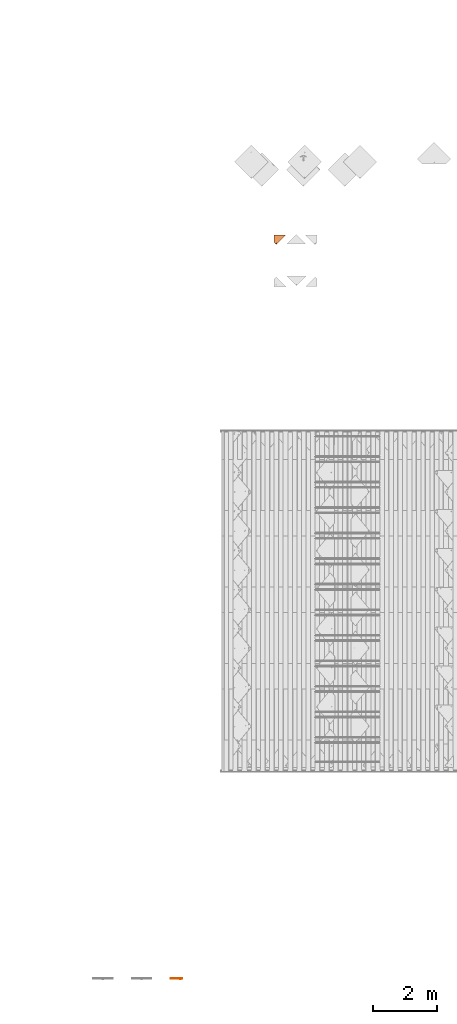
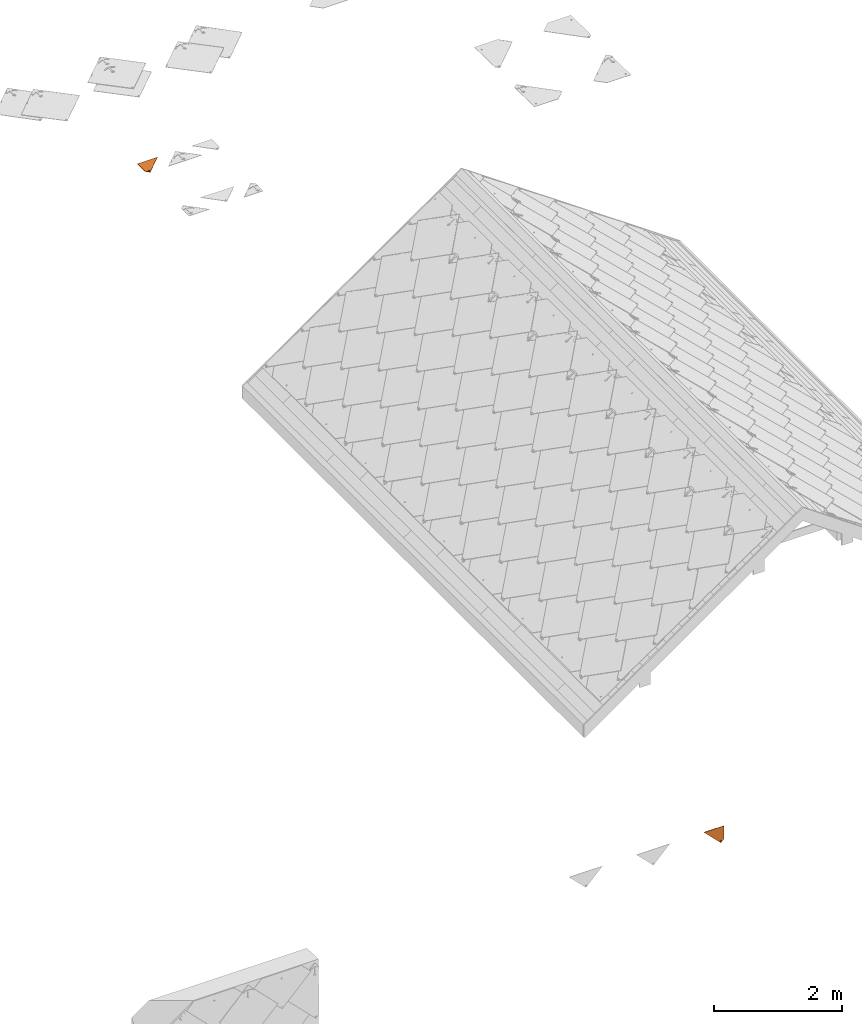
# One storey, part 148 of 151: 2 proxies.
"""IFC2X3 building model written with IfcOpenShell, lengths in millimetres."""

from ifc_helpers import new_model, entity, si_unit, converted_unit, derived_unit, direction, frame, origin, place, context, subcontext, project, spatial, faceted_brep, source, transform, mapped, material, material_list, type_object, type_shapes, element, save


model = new_model("IFC2X3")

# Units and contexts
model_context = context("Model", 3, precision=0.01, world=origin(), true_north=direction((6.12303176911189e-17, 1.0)))
body_context = subcontext(model_context, "Body", "Model", "MODEL_VIEW")
ifc_project = project(units=[si_unit("LENGTHUNIT", "METRE", prefix="MILLI"), si_unit("AREAUNIT", "SQUARE_METRE"), si_unit("VOLUMEUNIT", "CUBIC_METRE"), converted_unit("PLANEANGLEUNIT", "DEGREE", entity("IfcRatioMeasure", 0.0174532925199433), si_unit("PLANEANGLEUNIT", "RADIAN"), dimensions=[0, 0, 0, 0, 0, 0, 0]), si_unit("MASSUNIT", "GRAM", prefix="KILO"), derived_unit("MASSDENSITYUNIT", [(si_unit("MASSUNIT", "GRAM", prefix="KILO"), 1), (si_unit("LENGTHUNIT", "METRE"), -3)]), si_unit("TIMEUNIT", "SECOND"), si_unit("FREQUENCYUNIT", "HERTZ"), si_unit("THERMODYNAMICTEMPERATUREUNIT", "DEGREE_CELSIUS"), derived_unit("THERMALTRANSMITTANCEUNIT", [(si_unit("MASSUNIT", "GRAM", prefix="KILO"), 1), (si_unit("THERMODYNAMICTEMPERATUREUNIT", "KELVIN"), -1), (si_unit("TIMEUNIT", "SECOND"), -3)]), derived_unit("VOLUMETRICFLOWRATEUNIT", [(si_unit("LENGTHUNIT", "METRE"), 3), (si_unit("TIMEUNIT", "SECOND"), -1)]), si_unit("ELECTRICCURRENTUNIT", "AMPERE"), si_unit("ELECTRICVOLTAGEUNIT", "VOLT"), si_unit("POWERUNIT", "WATT"), si_unit("FORCEUNIT", "NEWTON", prefix="KILO"), si_unit("ILLUMINANCEUNIT", "LUX"), si_unit("LUMINOUSFLUXUNIT", "LUMEN"), si_unit("LUMINOUSINTENSITYUNIT", "CANDELA"), derived_unit("USERDEFINED", [(si_unit("MASSUNIT", "GRAM", prefix="KILO"), -1), (si_unit("LENGTHUNIT", "METRE"), -2), (si_unit("TIMEUNIT", "SECOND"), 3), (si_unit("LUMINOUSFLUXUNIT", "LUMEN"), 1)]), derived_unit("LINEARVELOCITYUNIT", [(si_unit("LENGTHUNIT", "METRE"), 1), (si_unit("TIMEUNIT", "SECOND"), -1)]), si_unit("PRESSUREUNIT", "PASCAL"), derived_unit("USERDEFINED", [(si_unit("LENGTHUNIT", "METRE"), -2), (si_unit("MASSUNIT", "GRAM", prefix="KILO"), 1), (si_unit("TIMEUNIT", "SECOND"), -2)])], contexts=[model_context])

# Site, building, storey
site_placement = place(None, origin())
site = spatial("IfcSite", under=ifc_project, at=site_placement, Name="Default", CompositionType="ELEMENT")
building_placement = place(site_placement, origin())
building = spatial("IfcBuilding", under=site, at=building_placement, CompositionType="ELEMENT")
storey_placement = place(building_placement, origin())
storey = spatial("IfcBuildingStorey", under=building, at=storey_placement, Name="Level 1", CompositionType="ELEMENT", Elevation=0.0)

# Proxies
ifc_material_1 = material(Name="Rubber - Sunstyle - Black")
ifc_material_2 = material(Name="Glass - Sunstyle - Tainted Black")
ifc_material_list_1 = material_list([ifc_material_1, ifc_material_2])
ifc_material_list_2 = material_list([ifc_material_1, ifc_material_2])
building_element_proxy_type_1 = type_object("IfcBuildingElementProxyType", Name="Corner Top Small Left - Black", PredefinedType="NOTDEFINED", material=ifc_material_list_2)
shared_shape_1 = source(origin(), body_context, "Body", "Brep", [
    faceted_brep([(60.1037538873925, 41.3085201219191, 1.59527223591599), (54.3295510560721, 37.9752499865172, 1.65109621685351), (54.3295510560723, 38.3435590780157, 23.6429655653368), (60.1037538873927, 41.6768292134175, 23.5871415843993), (54.3295510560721, 31.3087097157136, 1.76274417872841), (54.3295510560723, 31.677018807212, 23.7546135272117), (60.1037538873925, 27.9754395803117, 1.81856815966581), (60.1037538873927, 28.3437486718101, 23.8104375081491), (65.8779567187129, 31.3087097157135, 1.7627441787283), (65.8779567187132, 31.677018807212, 23.7546135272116), (65.877956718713, 37.9752499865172, 1.65109621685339), (65.8779567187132, 38.3435590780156, 23.6429655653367), (51.5000497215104, 26.4077911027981, 23.8428599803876), (60.1037538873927, 22.8445198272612, 23.9025359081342), (47.9362787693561, 35.0102889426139, 23.6987895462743), (51.5000497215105, 43.6127867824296, 23.5547191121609), (60.1037538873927, 47.1760580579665, 23.4950431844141), (68.7074580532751, 43.6127867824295, 23.5547191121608), (72.2712290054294, 35.0102889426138, 23.6987895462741), (68.707458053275, 26.4077911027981, 23.8428599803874), (48.779509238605, 37.3053660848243, 26.0116314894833), (50.3472793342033, 35.0813038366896, 27.9391141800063), (60.1037538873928, 42.3943790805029, 28.5718145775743), (60.1037538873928, 43.6348767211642, 27.9914679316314), (60.1037538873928, 45.792427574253, 26.98209285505), (60.1037538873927, 23.400563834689, 25.1775938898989), (60.1037538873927, 24.3441404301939, 27.3412982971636), (60.1037538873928, 27.7935161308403, 28.8163427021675), (60.1037538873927, 46.6630220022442, 24.7880055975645), (53.7805081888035, 31.443731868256, 28.7552106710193), (53.7805081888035, 38.7441633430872, 28.6329466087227), (71.4279985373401, 32.793945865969, 26.0871865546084), (69.952634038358, 34.0068973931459, 27.8602460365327), (66.4269995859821, 38.7441633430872, 28.6329466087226), (66.426999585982, 31.4437318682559, 28.7552106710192), (53.7805081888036, 31.5777603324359, 36.7580988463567), (60.1037538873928, 27.9275445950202, 36.8192308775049), (60.1037538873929, 35.2279760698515, 36.6969668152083), (53.7805081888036, 38.8781918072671, 36.6358347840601), (66.4269995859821, 31.5777603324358, 36.7580988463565), (66.4269995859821, 38.8781918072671, 36.6358347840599), (60.1037538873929, 42.5284075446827, 36.5747027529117), (60.1037538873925, 34.6419798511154, 1.7069201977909)], [[[0, 1, 2, 3]], [[1, 4, 5, 2]], [[4, 6, 7, 5]], [[6, 8, 9, 7]], [[8, 10, 11, 9]], [[10, 0, 3, 11]], [[12, 7, 13]], [[7, 12, 5]], [[14, 5, 12]], [[5, 14, 2]], [[15, 2, 14]], [[3, 2, 15]], [[15, 16, 3]], [[16, 17, 3]], [[11, 3, 17]], [[11, 17, 18]], [[9, 11, 18]], [[18, 19, 9]], [[7, 9, 19]], [[19, 13, 7]], [[20, 14, 12]], [[21, 22, 23, 24]], [[24, 20, 21]], [[25, 20, 12]], [[26, 27, 21]], [[15, 14, 20]], [[12, 13, 25]], [[20, 28, 15]], [[28, 20, 24]], [[21, 27, 29]], [[21, 29, 30]], [[26, 21, 20]], [[20, 25, 26]], [[15, 28, 16]], [[21, 30, 22]], [[31, 18, 17]], [[28, 31, 17]], [[32, 27, 26]], [[26, 31, 32]], [[26, 25, 31]], [[25, 19, 31]], [[17, 16, 28]], [[31, 19, 18]], [[24, 31, 28]], [[33, 34, 32]], [[23, 22, 33]], [[24, 32, 31]], [[27, 32, 34]], [[32, 23, 33]], [[19, 25, 13]], [[32, 24, 23]], [[35, 36, 37]], [[37, 38, 35]], [[36, 39, 37]], [[40, 37, 39]], [[37, 40, 41]], [[37, 41, 38]], [[42, 6, 4]], [[4, 1, 42]], [[1, 0, 42]], [[42, 8, 6]], [[0, 10, 42]], [[8, 42, 10]], [[22, 30, 38, 41]], [[30, 29, 35, 38]], [[29, 27, 36, 35]], [[27, 34, 39, 36]], [[34, 33, 40, 39]], [[33, 22, 41, 40]]]),
    faceted_brep([(60.103753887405, 43.4798316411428, 23.46969124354), (0.0, 300.742061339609, 19.1611890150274), (0.0, 60.2121670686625, 23.1894662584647), (58.0332015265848, 43.2072764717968, 23.4742558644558), (62.1743062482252, 43.2072764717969, 23.4742558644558), (64.103753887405, 42.4081851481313, 23.4876386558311), (360.804220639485, 300.742061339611, 19.1611890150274), (65.7606081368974, 41.137014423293, 23.5089276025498), (67.0319571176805, 39.4803924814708, 23.5366718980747), (67.8311604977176, 37.5512153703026, 23.5689808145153), (68.1037538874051, 35.4809533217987, 23.6036525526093), (67.8311604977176, 33.4106912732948, 23.6383242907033), (60.1034313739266, 0.125588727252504, 24.1957669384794), (67.0319571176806, 31.4815141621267, 23.670633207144), (65.7606081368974, 29.8248922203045, 23.6983775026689), (64.103753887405, 28.5537214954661, 23.7196664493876), (62.1743062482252, 27.7546301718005, 23.7330492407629), (60.1037538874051, 27.4820750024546, 23.7376138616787), (58.0332015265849, 27.7546301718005, 23.7330492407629), (56.1037538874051, 28.5537214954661, 23.7196664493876), (54.4468996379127, 29.8248922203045, 23.6983775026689), (53.1755506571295, 31.4815141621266, 23.670633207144), (52.3763472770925, 33.4106912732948, 23.6383242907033), (52.103753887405, 35.4809533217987, 23.6036525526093), (52.3763472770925, 37.5512153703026, 23.5689808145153), (53.1755506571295, 39.4803924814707, 23.5366718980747), (54.4468996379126, 41.1370144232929, 23.5089276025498), (56.103753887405, 42.4081851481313, 23.4876386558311), (60.1034313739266, 0.0, 16.6968185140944), (56.1037538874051, 28.4281327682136, 16.2207180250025), (58.0332015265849, 27.629041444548, 16.2341008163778), (54.4468996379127, 29.699303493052, 16.1994290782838), (60.1037538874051, 27.3564862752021, 16.2386654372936), (53.1755506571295, 31.3559254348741, 16.1716847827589), (0.0, 60.0865783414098, 15.6905178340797), (62.1743062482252, 27.629041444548, 16.2341008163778), (64.103753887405, 28.4281327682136, 16.2207180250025), (65.7606081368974, 29.699303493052, 16.1994290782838), (67.0319571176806, 31.3559254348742, 16.1716847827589), (67.8311604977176, 33.2851025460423, 16.1393758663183), (360.804220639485, 300.616472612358, 11.6622405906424), (52.3763472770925, 33.2851025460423, 16.1393758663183), (52.103753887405, 35.3553645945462, 16.1047041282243), (52.3763472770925, 37.4256266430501, 16.0700323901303), (53.1755506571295, 39.3548037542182, 16.0377234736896), (54.4468996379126, 41.0114256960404, 16.0099791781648), (56.103753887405, 42.2825964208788, 15.9886902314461), (58.0332015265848, 43.0816877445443, 15.9753074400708), (60.103753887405, 43.3542429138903, 15.970742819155), (0.0, 300.616472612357, 11.6622405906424), (62.1743062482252, 43.0816877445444, 15.9753074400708), (64.103753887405, 42.2825964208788, 15.9886902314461), (65.7606081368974, 41.0114256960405, 16.0099791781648), (68.1037538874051, 35.3553645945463, 16.1047041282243), (67.8311604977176, 37.4256266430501, 16.0700323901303), (67.0319571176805, 39.3548037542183, 16.0377234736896)], [[[0, 1, 2]], [[0, 2, 3]], [[4, 1, 0]], [[4, 5, 1]], [[1, 5, 6]], [[5, 7, 6]], [[7, 8, 6]], [[8, 9, 6]], [[6, 9, 10]], [[10, 11, 6]], [[12, 6, 11]], [[11, 13, 12]], [[13, 14, 12]], [[14, 15, 12]], [[16, 12, 15]], [[16, 17, 12]], [[18, 12, 17]], [[12, 18, 19]], [[19, 20, 12]], [[20, 21, 12]], [[22, 2, 21]], [[2, 12, 21]], [[22, 23, 2]], [[2, 23, 24]], [[24, 25, 2]], [[25, 26, 2]], [[26, 27, 2]], [[3, 2, 27]], [[28, 29, 30]], [[29, 28, 31]], [[28, 30, 32]], [[33, 31, 28]], [[33, 28, 34]], [[32, 35, 28]], [[35, 36, 28]], [[36, 37, 28]], [[37, 38, 28]], [[38, 39, 28]], [[28, 39, 40]], [[34, 41, 33]], [[42, 41, 34]], [[43, 42, 34]], [[44, 43, 34]], [[45, 44, 34]], [[34, 46, 45]], [[47, 46, 34]], [[47, 34, 48]], [[34, 49, 48]], [[48, 49, 50]], [[51, 50, 49]], [[40, 51, 49]], [[51, 40, 52]], [[39, 53, 40]], [[54, 40, 53]], [[54, 55, 40]], [[55, 52, 40]], [[23, 42, 43, 24]], [[24, 43, 44, 25]], [[27, 26, 45, 46]], [[44, 45, 26, 25]], [[3, 27, 46, 47]], [[48, 0, 3, 47]], [[4, 50, 51, 5]], [[5, 51, 52, 7]], [[9, 8, 55, 54]], [[52, 55, 8, 7]], [[10, 9, 54, 53]], [[4, 0, 48, 50]], [[10, 53, 39, 11]], [[11, 39, 38, 13]], [[15, 14, 37, 36]], [[38, 37, 14, 13]], [[16, 15, 36, 35]], [[32, 17, 16, 35]], [[18, 30, 29, 19]], [[19, 29, 31, 20]], [[22, 21, 33, 41]], [[31, 33, 21, 20]], [[23, 22, 41, 42]], [[18, 17, 32, 30]], [[12, 2, 34, 28]], [[6, 12, 28, 40]], [[1, 6, 40, 49]], [[2, 1, 49, 34]]]),
])
type_shapes(building_element_proxy_type_1, [shared_shape_1])
proxy_1_placement = place(storey_placement, frame((-1031.11528702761, 9780.88037284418, 2.41109682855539)))
element("IfcBuildingElementProxy", 1, at=proxy_1_placement, inside=storey, type_object=building_element_proxy_type_1, material=ifc_material_list_1, Name="Roofing_Panels_SunStyle_Tile_Corner-Top-Small-Left:Corner Top Small Left - Black", ObjectType="Roofing_Panels_SunStyle_Tile_Corner-Top-Small-Left:Corner Top Small Left - Black", context=body_context, shape_type="MappedRepresentation", body=[
    mapped(shared_shape_1, transform((0.0, 0.0, 0.0), scale=1.0)),
])
ifc_material_3 = material(Name="Glass - Sunstyle - Tainted Terracotta")
ifc_material_list_3 = material_list([ifc_material_1, ifc_material_3])
ifc_material_list_4 = material_list([ifc_material_1, ifc_material_3])
building_element_proxy_type_2 = type_object("IfcBuildingElementProxyType", Name="Corner Top Small Right - Terracotta", PredefinedType="NOTDEFINED", material=ifc_material_list_4)
shared_shape_2 = source(origin(), body_context, "Body", "Brep", [
    faceted_brep([(300.309183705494, 41.6050579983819, 1.59527223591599), (294.534980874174, 38.2717878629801, 1.65109621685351), (294.534980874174, 38.6400969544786, 23.6429655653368), (300.309183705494, 41.9733670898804, 23.5871415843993), (294.534980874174, 31.6052475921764, 1.76274417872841), (294.534980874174, 31.9735566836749, 23.7546135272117), (300.309183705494, 28.2719774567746, 1.81856815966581), (300.309183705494, 28.640286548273, 23.8104375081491), (306.083386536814, 31.6052475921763, 1.7627441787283), (306.083386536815, 31.9735566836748, 23.7546135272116), (306.083386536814, 38.2717878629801, 1.65109621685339), (306.083386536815, 38.6400969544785, 23.6429655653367), (291.705479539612, 26.704328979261, 23.8428599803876), (300.309183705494, 23.1410577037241, 23.9025359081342), (288.141708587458, 35.3068268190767, 23.6987895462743), (291.705479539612, 43.9093246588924, 23.5547191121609), (300.309183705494, 47.4725959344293, 23.4950431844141), (308.912887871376, 43.9093246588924, 23.5547191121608), (312.476658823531, 35.3068268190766, 23.6987895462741), (308.912887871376, 26.704328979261, 23.8428599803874), (288.984939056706, 37.6019039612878, 26.0116314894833), (290.552709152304, 35.3778417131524, 27.9391141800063), (300.309183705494, 42.6909169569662, 28.5718145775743), (300.309183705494, 43.9314145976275, 27.9914679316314), (300.309183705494, 46.0889654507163, 26.98209285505), (300.309183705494, 23.6971017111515, 25.1775938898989), (300.309183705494, 24.6406783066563, 27.3412982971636), (300.309183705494, 28.0900540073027, 28.8163427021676), (300.309183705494, 46.9595598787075, 24.7880055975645), (293.985938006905, 31.7402697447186, 28.7552106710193), (293.985938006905, 39.0407012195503, 28.6329466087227), (311.633428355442, 33.0904837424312, 26.0871865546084), (310.15806385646, 34.3034352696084, 27.8602460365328), (306.632429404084, 39.0407012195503, 28.6329466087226), (306.632429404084, 31.7402697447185, 28.7552106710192), (293.985938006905, 31.8742982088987, 36.7580988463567), (300.309183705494, 28.224082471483, 36.8192308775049), (300.309183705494, 35.5245139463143, 36.6969668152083), (293.985938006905, 39.17472968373, 36.6358347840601), (306.632429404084, 31.8742982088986, 36.7580988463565), (306.632429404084, 39.1747296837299, 36.6358347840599), (300.309183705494, 42.8249454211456, 36.5747027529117), (300.309183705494, 34.9385177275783, 1.7069201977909)], [[[0, 1, 2, 3]], [[1, 4, 5, 2]], [[4, 6, 7, 5]], [[6, 8, 9, 7]], [[8, 10, 11, 9]], [[10, 0, 3, 11]], [[12, 7, 13]], [[7, 12, 5]], [[14, 5, 12]], [[5, 14, 2]], [[15, 2, 14]], [[3, 2, 15]], [[15, 16, 3]], [[16, 17, 3]], [[11, 3, 17]], [[11, 17, 18]], [[9, 11, 18]], [[18, 19, 9]], [[7, 9, 19]], [[19, 13, 7]], [[20, 14, 12]], [[21, 22, 23, 24]], [[24, 20, 21]], [[25, 20, 12]], [[26, 27, 21]], [[15, 14, 20]], [[12, 13, 25]], [[20, 28, 15]], [[28, 20, 24]], [[21, 27, 29]], [[21, 29, 30]], [[26, 21, 20]], [[20, 25, 26]], [[15, 28, 16]], [[21, 30, 22]], [[31, 18, 17]], [[28, 31, 17]], [[32, 27, 26]], [[26, 31, 32]], [[26, 25, 31]], [[25, 19, 31]], [[17, 16, 28]], [[31, 19, 18]], [[24, 31, 28]], [[33, 34, 32]], [[23, 22, 33]], [[24, 32, 31]], [[27, 32, 34]], [[32, 23, 33]], [[19, 25, 13]], [[32, 24, 23]], [[35, 36, 37]], [[37, 38, 35]], [[36, 39, 37]], [[40, 37, 39]], [[37, 40, 41]], [[37, 41, 38]], [[42, 6, 4]], [[4, 1, 42]], [[1, 0, 42]], [[42, 8, 6]], [[0, 10, 42]], [[8, 42, 10]], [[22, 30, 38, 41]], [[30, 29, 35, 38]], [[29, 27, 36, 35]], [[27, 34, 39, 36]], [[34, 33, 40, 39]], [[33, 22, 41, 40]]]),
    faceted_brep([(300.700466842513, 0.125588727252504, 24.1962208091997), (304.302649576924, 28.4261395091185, 23.7222570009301), (302.373201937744, 27.6270481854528, 23.7356397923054), (305.959503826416, 29.6973102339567, 23.7009680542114), (300.302649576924, 27.3544930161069, 23.7402044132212), (307.230852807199, 31.3539321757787, 23.6732237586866), (360.803898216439, 60.2121670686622, 23.189920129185), (298.232097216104, 27.6270481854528, 23.7356397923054), (296.302649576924, 28.4261395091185, 23.7222570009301), (294.645795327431, 29.6973102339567, 23.7009680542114), (293.374446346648, 31.3539321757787, 23.6732237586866), (292.575242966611, 33.2831092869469, 23.6409148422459), (0.0, 300.741739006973, 19.1616482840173), (308.030056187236, 33.2831092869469, 23.6409148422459), (308.302649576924, 35.3533713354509, 23.6062431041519), (308.030056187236, 37.4236333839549, 23.5715713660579), (307.230852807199, 39.3528104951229, 23.5392624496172), (305.959503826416, 41.0094324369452, 23.5115181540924), (304.302649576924, 42.2806031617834, 23.4902292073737), (302.373201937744, 43.079694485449, 23.4768464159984), (300.302649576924, 43.3522496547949, 23.4722817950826), (360.803898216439, 300.741739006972, 19.1616482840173), (298.232097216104, 43.079694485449, 23.4768464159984), (296.302649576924, 42.2806031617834, 23.4902292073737), (294.645795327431, 41.009432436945, 23.5115181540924), (292.302649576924, 35.3533713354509, 23.6062431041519), (292.575242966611, 37.4236333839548, 23.5715713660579), (293.374446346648, 39.3528104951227, 23.5392624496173), (300.302649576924, 43.2266609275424, 15.9733333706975), (360.803898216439, 300.616150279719, 11.6626998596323), (360.803898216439, 60.0865783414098, 15.6909717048), (302.373201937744, 42.9541057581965, 15.9778979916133), (298.232097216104, 42.9541057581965, 15.9778979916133), (296.302649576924, 42.1550144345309, 15.9912807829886), (0.0, 300.61615027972, 11.6626998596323), (294.645795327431, 40.8838437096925, 16.0125697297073), (293.374446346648, 39.2272217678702, 16.0403140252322), (292.575242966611, 37.2980446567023, 16.0726229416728), (292.302649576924, 35.2277826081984, 16.1072946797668), (292.575242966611, 33.1575205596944, 16.1419664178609), (300.700466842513, 0.0, 16.6972723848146), (293.374446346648, 31.2283434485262, 16.1742753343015), (294.645795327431, 29.5717215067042, 16.2020196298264), (296.302649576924, 28.300550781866, 16.2233085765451), (298.232097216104, 27.5014594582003, 16.2366913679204), (300.302649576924, 27.2289042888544, 16.2412559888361), (302.373201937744, 27.5014594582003, 16.2366913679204), (304.302649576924, 28.300550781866, 16.2233085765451), (305.959503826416, 29.5717215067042, 16.2020196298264), (307.230852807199, 31.2283434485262, 16.1742753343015), (308.030056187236, 33.1575205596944, 16.1419664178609), (308.302649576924, 35.2277826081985, 16.1072946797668), (308.030056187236, 37.2980446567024, 16.0726229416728), (307.230852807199, 39.2272217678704, 16.0403140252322), (305.959503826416, 40.8838437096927, 16.0125697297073), (304.302649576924, 42.1550144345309, 15.9912807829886)], [[[0, 1, 2]], [[1, 0, 3]], [[0, 2, 4]], [[5, 3, 0]], [[5, 0, 6]], [[4, 7, 0]], [[7, 8, 0]], [[8, 9, 0]], [[9, 10, 0]], [[10, 11, 0]], [[0, 11, 12]], [[6, 13, 5]], [[14, 13, 6]], [[15, 14, 6]], [[16, 15, 6]], [[17, 16, 6]], [[6, 18, 17]], [[19, 18, 6]], [[19, 6, 20]], [[6, 21, 20]], [[20, 21, 22]], [[23, 22, 21]], [[12, 23, 21]], [[23, 12, 24]], [[11, 25, 12]], [[26, 12, 25]], [[26, 27, 12]], [[27, 24, 12]], [[28, 29, 30]], [[28, 30, 31]], [[32, 29, 28]], [[32, 33, 29]], [[29, 33, 34]], [[33, 35, 34]], [[35, 36, 34]], [[36, 37, 34]], [[34, 37, 38]], [[38, 39, 34]], [[40, 34, 39]], [[39, 41, 40]], [[41, 42, 40]], [[42, 43, 40]], [[44, 40, 43]], [[44, 45, 40]], [[46, 40, 45]], [[40, 46, 47]], [[47, 48, 40]], [[48, 49, 40]], [[50, 30, 49]], [[30, 40, 49]], [[50, 51, 30]], [[30, 51, 52]], [[52, 53, 30]], [[53, 54, 30]], [[54, 55, 30]], [[31, 30, 55]], [[0, 12, 34, 40]], [[6, 0, 40, 30]], [[25, 38, 37, 26]], [[26, 37, 36, 27]], [[23, 24, 35, 33]], [[35, 24, 27, 36]], [[22, 23, 33, 32]], [[22, 32, 28, 20]], [[20, 28, 31, 19]], [[19, 31, 55, 18]], [[16, 17, 54, 53]], [[54, 17, 18, 55]], [[15, 16, 53, 52]], [[15, 52, 51, 14]], [[14, 51, 50, 13]], [[13, 50, 49, 5]], [[1, 3, 48, 47]], [[48, 3, 5, 49]], [[2, 1, 47, 46]], [[2, 46, 45, 4]], [[4, 45, 44, 7]], [[7, 44, 43, 8]], [[10, 9, 42, 41]], [[42, 9, 8, 43]], [[11, 10, 41, 39]], [[11, 39, 38, 25]], [[12, 21, 29, 34]], [[21, 6, 30, 29]]]),
])
type_shapes(building_element_proxy_type_2, [shared_shape_2])
proxy_2_placement = place(storey_placement, frame((-4265.73771055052, -13194.2847487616, 2235.76449656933), z_axis=(0.0, -1.0, 0.0), x_axis=(1.0, 0.0, 0.0)))
element("IfcBuildingElementProxy", 2, at=proxy_2_placement, inside=storey, type_object=building_element_proxy_type_2, material=ifc_material_list_3, Name="Roofing_Panels_SunStyle_Tile_Corner-Top-Small-Right:Corner Top Small Right - Terracotta", ObjectType="Roofing_Panels_SunStyle_Tile_Corner-Top-Small-Right:Corner Top Small Right - Terracotta", context=body_context, shape_type="MappedRepresentation", body=[
    mapped(shared_shape_2, transform((0.0, 0.0, 0.0), scale=1.0)),
])

save(model, "model.ifc")
